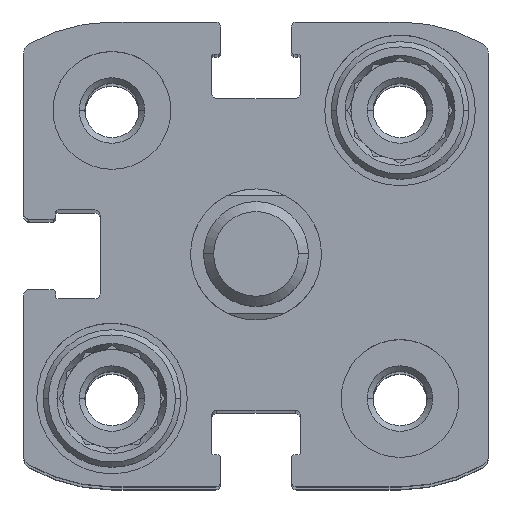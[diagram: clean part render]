
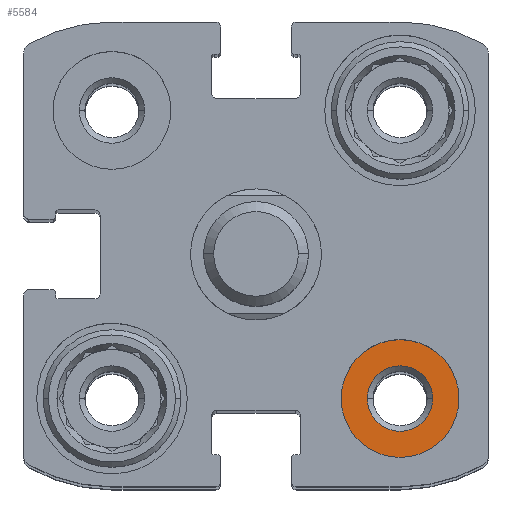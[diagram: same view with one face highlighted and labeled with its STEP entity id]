
A CAD part, top view. The second image highlights one B-rep face of the part: STEP entity #5584.
In plain terms, the highlighted planar face has unit normal (0, 0, 1).
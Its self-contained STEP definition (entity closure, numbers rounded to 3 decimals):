
#523 = CARTESIAN_POINT ( 'NONE',  ( 11., -11., -4.8 ) ) ;
#618 = AXIS2_PLACEMENT_3D ( 'NONE', #2870, #10058, #6993 ) ;
#726 = DIRECTION ( 'NONE',  ( 0., 0., -1. ) ) ;
#731 = AXIS2_PLACEMENT_3D ( 'NONE', #9374, #7588, #5294 ) ;
#1309 = FACE_BOUND ( 'NONE', #11914, .T. ) ;
#1331 = ORIENTED_EDGE ( 'NONE', *, *, #2513, .F. ) ;
#1917 = VERTEX_POINT ( 'NONE', #5511 ) ;
#2513 = EDGE_CURVE ( 'NONE', #4911, #1917, #10185, .T. ) ;
#2870 = CARTESIAN_POINT ( 'NONE',  ( 11., -11., -4.8 ) ) ;
#3293 = VERTEX_POINT ( 'NONE', #3428 ) ;
#3428 = CARTESIAN_POINT ( 'NONE',  ( 13.5, -11., -4.8 ) ) ;
#3561 = EDGE_CURVE ( 'NONE', #1917, #4911, #9177, .T. ) ;
#3779 = EDGE_LOOP ( 'NONE', ( #4402, #1331 ) ) ;
#4158 = CARTESIAN_POINT ( 'NONE',  ( 11., -11., -4.8 ) ) ;
#4402 = ORIENTED_EDGE ( 'NONE', *, *, #3561, .F. ) ;
#4911 = VERTEX_POINT ( 'NONE', #6731 ) ;
#5226 = FACE_OUTER_BOUND ( 'NONE', #3779, .T. ) ;
#5251 = ORIENTED_EDGE ( 'NONE', *, *, #9528, .T. ) ;
#5294 = DIRECTION ( 'NONE',  ( 1., 0., 0. ) ) ;
#5511 = CARTESIAN_POINT ( 'NONE',  ( 6.5, -11., -4.8 ) ) ;
#5584 = ADVANCED_FACE ( 'NONE', ( #5226, #1309 ), #7465, .T. ) ;
#5669 = DIRECTION ( 'NONE',  ( -1., 0., 0. ) ) ;
#6731 = CARTESIAN_POINT ( 'NONE',  ( 15.5, -11., -4.8 ) ) ;
#6870 = AXIS2_PLACEMENT_3D ( 'NONE', #4158, #8283, #7266 ) ;
#6993 = DIRECTION ( 'NONE',  ( -1., 0., 0. ) ) ;
#7135 = CARTESIAN_POINT ( 'NONE',  ( 11., -11., -4.8 ) ) ;
#7266 = DIRECTION ( 'NONE',  ( -1., 0., 0. ) ) ;
#7275 = DIRECTION ( 'NONE',  ( 0., 0., -1. ) ) ;
#7465 = PLANE ( 'NONE',  #731 ) ;
#7588 = DIRECTION ( 'NONE',  ( 0., 0., 1. ) ) ;
#7896 = CARTESIAN_POINT ( 'NONE',  ( 8.5, -11., -4.8 ) ) ;
#7928 = VERTEX_POINT ( 'NONE', #7896 ) ;
#8283 = DIRECTION ( 'NONE',  ( 0., 0., -1. ) ) ;
#8874 = AXIS2_PLACEMENT_3D ( 'NONE', #523, #726, #5669 ) ;
#9177 = CIRCLE ( 'NONE', #11570, 4.5 ) ;
#9374 = CARTESIAN_POINT ( 'NONE',  ( 11., -6.5, -4.8 ) ) ;
#9528 = EDGE_CURVE ( 'NONE', #3293, #7928, #12733, .T. ) ;
#9714 = CIRCLE ( 'NONE', #618, 2.5 ) ;
#10058 = DIRECTION ( 'NONE',  ( 0., 0., -1. ) ) ;
#10185 = CIRCLE ( 'NONE', #8874, 4.5 ) ;
#10516 = EDGE_CURVE ( 'NONE', #7928, #3293, #9714, .T. ) ;
#11287 = DIRECTION ( 'NONE',  ( -1., 0., 0. ) ) ;
#11570 = AXIS2_PLACEMENT_3D ( 'NONE', #7135, #7275, #11287 ) ;
#11914 = EDGE_LOOP ( 'NONE', ( #5251, #13427 ) ) ;
#12733 = CIRCLE ( 'NONE', #6870, 2.5 ) ;
#13427 = ORIENTED_EDGE ( 'NONE', *, *, #10516, .T. ) ;
